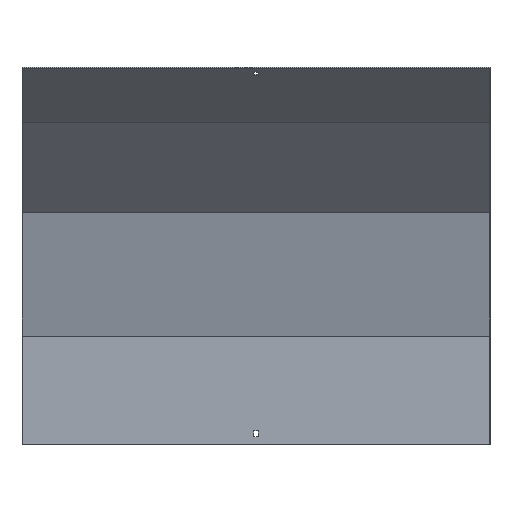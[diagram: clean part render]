
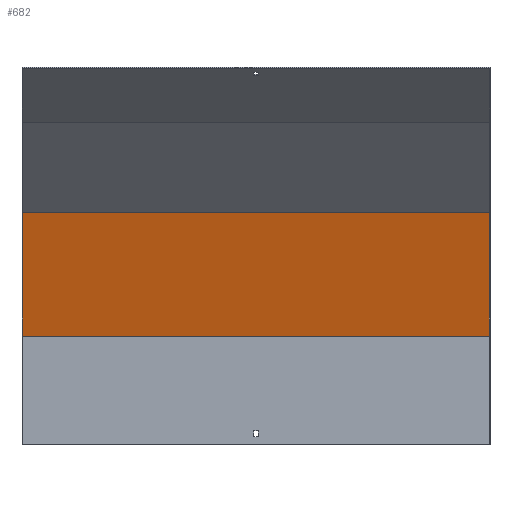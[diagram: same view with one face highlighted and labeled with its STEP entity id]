
A CAD part, front view. The second image highlights one B-rep face of the part: STEP entity #682.
In plain terms, the highlighted planar face has unit normal (0, -0.966, -0.259).
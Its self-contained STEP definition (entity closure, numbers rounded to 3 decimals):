
#28 = VECTOR ( 'NONE', #472, 1000. ) ;
#43 = CARTESIAN_POINT ( 'NONE',  ( 350., -31.295, 348.273 ) ) ;
#60 = ORIENTED_EDGE ( 'NONE', *, *, #693, .F. ) ;
#104 = CARTESIAN_POINT ( 'NONE',  ( 351.5, -31.295, 348.273 ) ) ;
#161 = VECTOR ( 'NONE', #701, 1000. ) ;
#175 = CARTESIAN_POINT ( 'NONE',  ( 351.5, 17.87, 164.788 ) ) ;
#176 = EDGE_LOOP ( 'NONE', ( #60, #271, #663, #820 ) ) ;
#180 = DIRECTION ( 'NONE',  ( 0., -0.966, -0.259 ) ) ;
#183 = CARTESIAN_POINT ( 'NONE',  ( 350., 18.5, 162.436 ) ) ;
#201 = CARTESIAN_POINT ( 'NONE',  ( -350., -31.295, 348.273 ) ) ;
#203 = DIRECTION ( 'NONE',  ( -1., 0., 0. ) ) ;
#271 = ORIENTED_EDGE ( 'NONE', *, *, #690, .F. ) ;
#296 = LINE ( 'NONE', #456, #555 ) ;
#382 = CARTESIAN_POINT ( 'NONE',  ( -350., 57.87, 15.506 ) ) ;
#401 = EDGE_CURVE ( 'NONE', #987, #475, #296, .T. ) ;
#456 = CARTESIAN_POINT ( 'NONE',  ( 350., 57.87, 15.506 ) ) ;
#459 = LINE ( 'NONE', #929, #28 ) ;
#462 = LINE ( 'NONE', #382, #161 ) ;
#471 = VERTEX_POINT ( 'NONE', #781 ) ;
#472 = DIRECTION ( 'NONE',  ( -1., 0., 0. ) ) ;
#475 = VERTEX_POINT ( 'NONE', #43 ) ;
#480 = PLANE ( 'NONE',  #887 ) ;
#555 = VECTOR ( 'NONE', #622, 1000. ) ;
#571 = VERTEX_POINT ( 'NONE', #201 ) ;
#622 = DIRECTION ( 'NONE',  ( 0., -0.259, 0.966 ) ) ;
#663 = ORIENTED_EDGE ( 'NONE', *, *, #401, .T. ) ;
#682 = ADVANCED_FACE ( 'NONE', ( #847 ), #480, .T. ) ;
#690 = EDGE_CURVE ( 'NONE', #987, #471, #459, .T. ) ;
#693 = EDGE_CURVE ( 'NONE', #471, #571, #462, .T. ) ;
#701 = DIRECTION ( 'NONE',  ( 0., -0.259, 0.966 ) ) ;
#747 = VECTOR ( 'NONE', #203, 1000. ) ;
#751 = EDGE_CURVE ( 'NONE', #475, #571, #854, .T. ) ;
#781 = CARTESIAN_POINT ( 'NONE',  ( -350., 18.5, 162.436 ) ) ;
#820 = ORIENTED_EDGE ( 'NONE', *, *, #751, .T. ) ;
#847 = FACE_OUTER_BOUND ( 'NONE', #176, .T. ) ;
#854 = LINE ( 'NONE', #104, #747 ) ;
#887 = AXIS2_PLACEMENT_3D ( 'NONE', #175, #180, #935 ) ;
#929 = CARTESIAN_POINT ( 'NONE',  ( 351.5, 18.5, 162.436 ) ) ;
#935 = DIRECTION ( 'NONE',  ( 0., 0.259, -0.966 ) ) ;
#987 = VERTEX_POINT ( 'NONE', #183 ) ;
